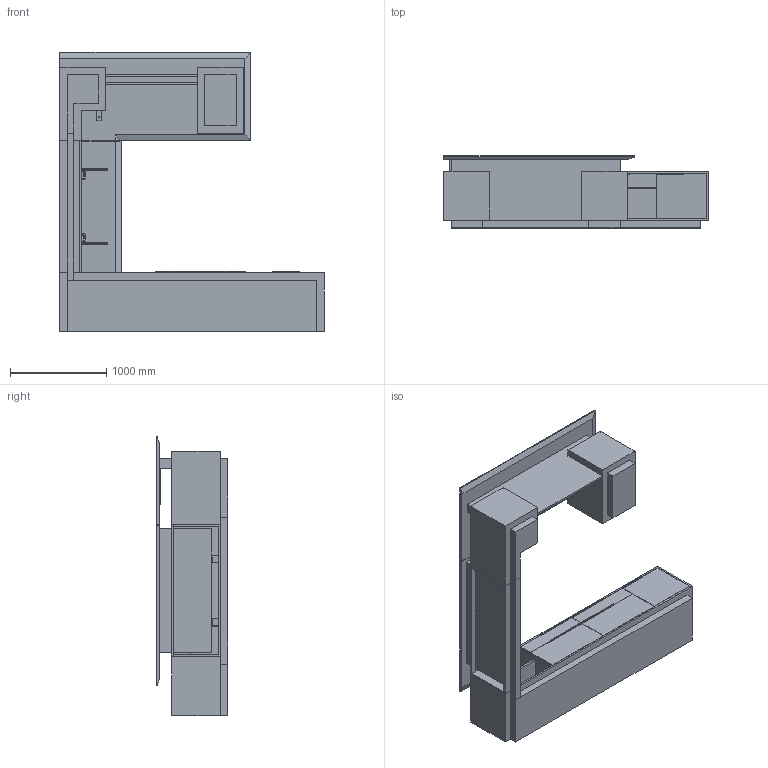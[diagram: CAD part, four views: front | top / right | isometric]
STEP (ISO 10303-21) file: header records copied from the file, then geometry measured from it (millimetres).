
FILE_DESCRIPTION(/* description */ ('','CAx-IF Rec.Pracs.---Representation and Presentation of Product Manufacturing Information (PMI)---4.0---2014-10-13'),/* implementation_level */ '2;1');
FILE_NAME(/* name */ 'PRIVATE OFFICE_ELEVATE 4.stp',/* time_stamp */ '2024-12-08T11:03:37-05:00',/* author */ ('mbowman'),/* organization */ (''),/* preprocessor_version */ 'ST-DEVELOPER v19.2',/* originating_system */ 'Autodesk Inventor 2023',/* authorisation */ '');
FILE_SCHEMA (('AP242_MANAGED_MODEL_BASED_3D_ENGINEERING_MIM_LF { 1 0 10303 442 1 1 4 }'));
Products named in the file (12): CCN^APOGEE_L4 L-OFFICE-HAT BRIDGE SOLID ASSEMBLY; CCN^APOGEE_24x108 RT CREDENZA-PARTS SOLID; CCN^APOGEE_L4 36x84 FIXED TOP DESK-LIFT BRIDGE RT PARTS SOLID; CCN^APOGEE_L4 25x42 LIFT TOP BRIDGE-PARTS SOLID; JW PULL-18_25^STANDARD; JW PULL-11_125^STANDARD; QUADRATURE^FIXED TOP-METAL-CANTILEVER BRACKET; dl5nc_without_bracket_STEP; DL5NC_OP; STANDART_MOTORHUS1_DL5; SS LIFT ANGLE_16_LT_OMT_LINAK; SS LIFT ANGLE_16_RT_OMT_LINAK
Assembly tree (18 placements, depth 3):
  CCN^APOGEE_L4 L-OFFICE-HAT BRIDGE SOLID ASSEMBLY
    CCN^APOGEE_24x108 RT CREDENZA-PARTS SOLID
    CCN^APOGEE_L4 36x84 FIXED TOP DESK-LIFT BRIDGE RT PARTS SOLID
    CCN^APOGEE_L4 25x42 LIFT TOP BRIDGE-PARTS SOLID
    JW PULL-18_25^STANDARD  x4
    JW PULL-11_125^STANDARD  x3
    QUADRATURE^FIXED TOP-METAL-CANTILEVER BRACKET  x2
    dl5nc_without_bracket_STEP  x2
      DL5NC_OP
      STANDART_MOTORHUS1_DL5
    SS LIFT ANGLE_16_LT_OMT_LINAK
    SS LIFT ANGLE_16_RT_OMT_LINAK
Bounding box: 2743.2 x 742.95 x 2895.6 mm (x, y, z)
Volume: 511407091.2 mm3; surface area: 43634135.7 mm2
Topology: 66 solids, 106 shells, 2891 faces, 7416 edges, 4731 vertices
Faces by surface type: plane 1740, cylinder 929, torus 92, bspline 76, cone 30, sphere 24
Full cylindrical faces by diameter (mm): 4.6 x4, 4.826 x8, 5 x36, 5.3 x12, 5.5 x4, 7.137 x4, 7.938 x16, 8 x4, 8.202 x40
Entity records: 57918 total; most frequent: CARTESIAN_POINT 14315, DIRECTION 8502, ORIENTED_EDGE 8176, EDGE_CURVE 4088, AXIS2_PLACEMENT_3D 2866, LINE 2770, VECTOR 2770, VERTEX_POINT 2625
